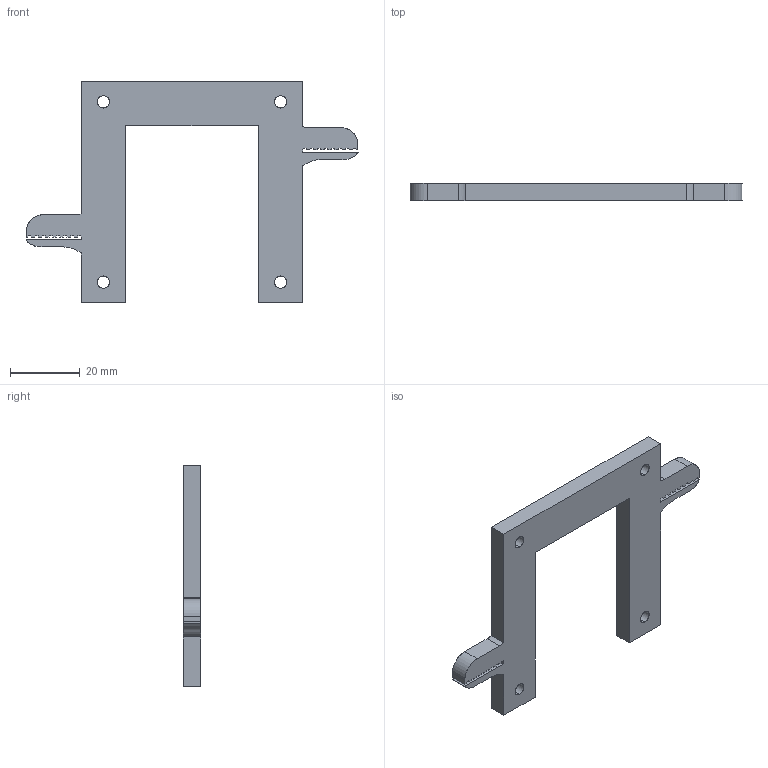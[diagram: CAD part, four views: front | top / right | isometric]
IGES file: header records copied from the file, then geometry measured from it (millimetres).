
Start section: SolidWorks IGES file using analytic representation for surfaces
Global section: file name: C:\Documents and Settings\Administrator\Desktop\coreXY\CoreXY EVT1\20110623\corexy1_beltplate.IGS; native system: SolidWorks 2009; preprocessor: SolidWorks 2009; author: Administrator; date: 120423.190408; units: millimetre
Bounding box: 95.11 x 5 x 63.5 mm (x, y, z)
Surface area: 7249.8 mm2 (no closed solid volume)
Topology: 0 solids, 0 shells, 102 faces, 904 edges, 904 vertices
Faces by surface type: bspline 88, revolution 14
